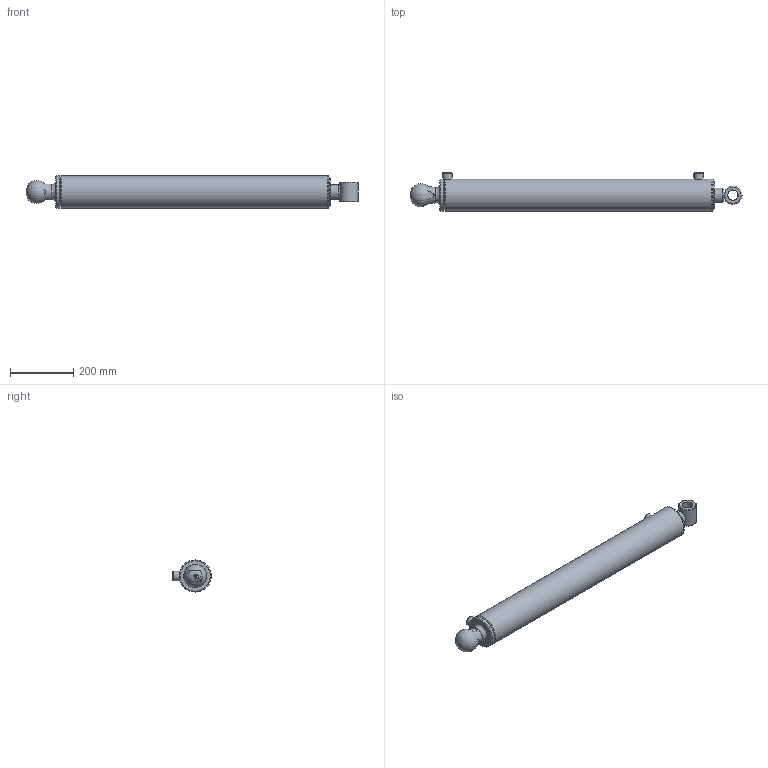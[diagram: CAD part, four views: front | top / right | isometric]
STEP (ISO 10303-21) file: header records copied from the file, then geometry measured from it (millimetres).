
FILE_DESCRIPTION(/* description */ ('Alibre Inc.'),/* implementation_level */ '2;1');
FILE_NAME(/* name */ 'export0',/* time_stamp */ '2016-08-16T10:05:37+12:00',/* author */ (''),/* organization */ (''),/* preprocessor_version */ 'ST-DEVELOPER v14',/* originating_system */ 'Alibre',/* authorisation */ '');
FILE_SCHEMA (('AUTOMOTIVE_DESIGN'));
Length unit declared in the file: centimetre
Bounding box: 1046.88 x 121.6 x 101.6 mm (x, y, z)
Volume: 3946640.5 mm3; surface area: 841224.4 mm2
Topology: 12 solids, 12 shells, 148 faces, 306 edges, 191 vertices
Faces by surface type: cylinder 57, plane 48, cone 26, torus 16, bspline 1
Full cylindrical faces by diameter (mm): 7 x1, 8.3 x2, 8.4 x1, 12.7 x2, 19.1 x2, 29.35 x1, 29.972 x1, 30 x2, 31.75 x1, 31.8 x1, 31.801 x1, 44.45 x2, 44.53 x2, 50.8 x1, 53.25 x2, 53.97 x2, 57.15 x1, 73.03 x1, 81.9 x1, 83.06 x1, 84.3 x2, 85.27 x2, 85.5 x1, 87.53 x2, 88.75 x1, 88.79 x2, 88.9 x2, 92.1 x1, 101.6 x3
Entity records: 4071 total; most frequent: CARTESIAN_POINT 1180, DIRECTION 562, ORIENTED_EDGE 372, AXIS2_PLACEMENT_3D 297, FACE_BOUND 270, EDGE_LOOP 267, EDGE_CURVE 186, VERTEX_POINT 166
